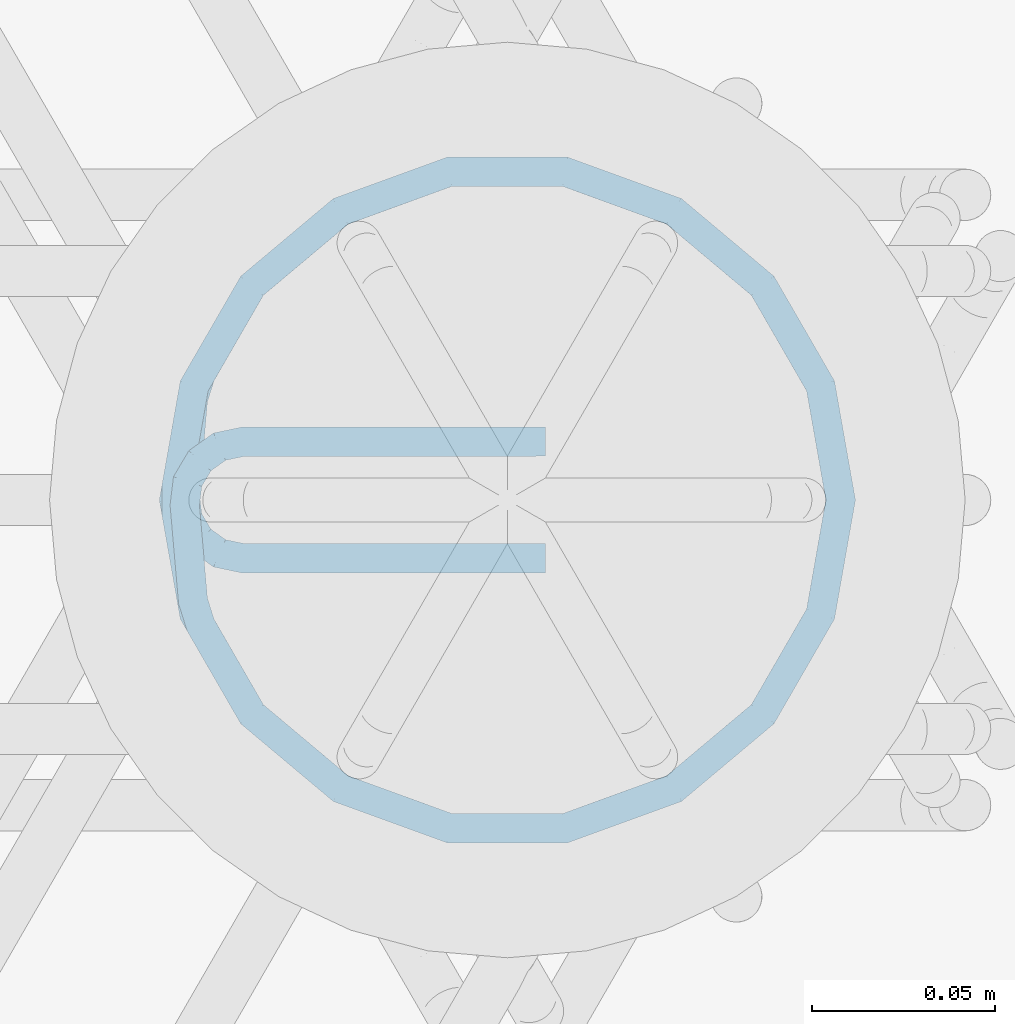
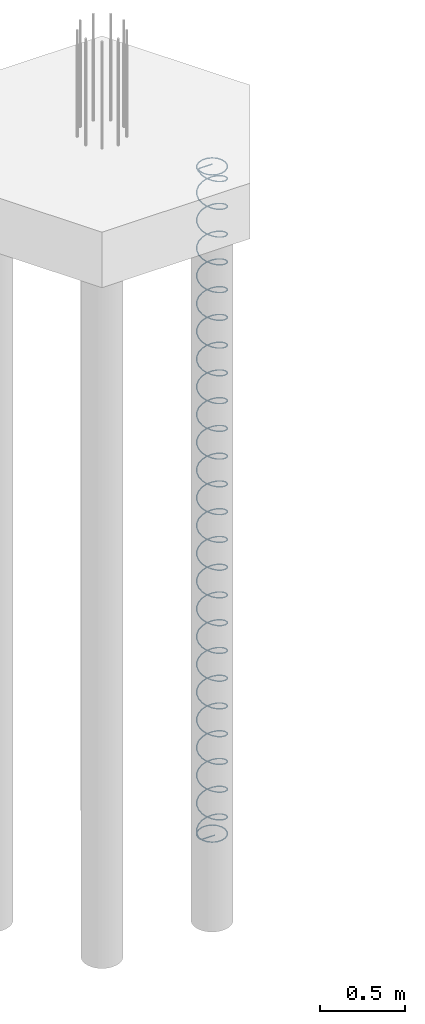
# One storey, part 12 of 23: 1 reinforcing bar.
"""IFC2X3 building model written with IfcOpenShell, lengths in metres."""

from ifc_helpers import new_model, entity, si_unit, direction, frame, origin, place, context, subcontext, project, spatial, shape, source, transform, mapped, element, save


model = new_model("IFC2X3")

# Units and contexts
model_context = context("Model", 3, precision=0.0, world=origin(), true_north=direction((0.0, 1.0)))
plan_context = context("Plan", 3, precision=0.0, world=origin(), true_north=direction((0.0, 1.0)))
body_context = subcontext(model_context, "Body", "Model", "MODEL_VIEW", scale=1.0)
ifc_project = project(units=[si_unit("LENGTHUNIT", "METRE"), si_unit("AREAUNIT", "SQUARE_METRE"), si_unit("VOLUMEUNIT", "CUBIC_METRE"), si_unit("PLANEANGLEUNIT", "RADIAN"), si_unit("THERMODYNAMICTEMPERATUREUNIT", "DEGREE_CELSIUS"), si_unit("FORCEUNIT", "NEWTON"), si_unit("MASSUNIT", "GRAM", prefix="KILO")], contexts=[model_context, plan_context])

# Site, building, storey
placement = place(None, origin())
site = spatial("IfcSite", under=ifc_project, at=placement, Name="Default Site", CompositionType="ELEMENT")
building = spatial("IfcBuilding", under=site, at=placement, Name="Default Building", CompositionType="ELEMENT")
storey_placement = place(placement, frame((0.0, 0.0, 0.0), z_axis=(1.0, 0.0, 0.0), x_axis=(0.0, 0.0, 1.0)))
storey = spatial("IfcBuildingStorey", under=building, at=storey_placement, Name="Piano 0", CompositionType="ELEMENT", Elevation=0.0)

# Reinforcing bar
shared_shape = source(origin(), body_context, None, "AdvancedSweptSolid", [
    entity("IfcSweptDiskSolid", entity("IfcCompositeCurve", [entity("IfcCompositeCurveSegment", "CONTINUOUS", True, entity("IfcPolyline", [entity("IfcCartesianPoint", [0.0, 0.0, 0.0]), entity("IfcCartesianPoint", [-0.08255, 0.0, 0.0]), entity("IfcCartesianPoint", [-0.088992, -0.001354, -1.3e-05]), entity("IfcCartesianPoint", [-0.094343, -0.005186, -4.9e-05]), entity("IfcCartesianPoint", [-0.097699, -0.010849, -0.000103]), entity("IfcCartesianPoint", [-0.09849, -0.017383, -0.000164]), entity("IfcCartesianPoint", [-0.096222, -0.043503, -0.000411]), entity("IfcCartesianPoint", [-0.094139, -0.050118, -0.000494]), entity("IfcCartesianPoint", [-0.080113, -0.074411, -0.000889]), entity("IfcCartesianPoint", [-0.055903, -0.094726, -0.001333]), entity("IfcCartesianPoint", [-0.026205, -0.105535, -0.001778]), entity("IfcCartesianPoint", [0.005399, -0.105535, -0.002222]), entity("IfcCartesianPoint", [0.035097, -0.094726, -0.002667]), entity("IfcCartesianPoint", [0.059307, -0.074411, -0.003111]), entity("IfcCartesianPoint", [0.075109, -0.047042, -0.003556]), entity("IfcCartesianPoint", [0.080597, -0.015918, -0.004]), entity("IfcCartesianPoint", [0.075109, 0.015206, -0.004444]), entity("IfcCartesianPoint", [0.059307, 0.042576, -0.004889]), entity("IfcCartesianPoint", [0.035097, 0.062891, -0.005333]), entity("IfcCartesianPoint", [0.005399, 0.0737, -0.005778]), entity("IfcCartesianPoint", [-0.026205, 0.0737, -0.006222]), entity("IfcCartesianPoint", [-0.055903, 0.062891, -0.006667]), entity("IfcCartesianPoint", [-0.080113, 0.042576, -0.007111]), entity("IfcCartesianPoint", [-0.095915, 0.015206, -0.007556]), entity("IfcCartesianPoint", [-0.100736, -0.012136, -0.007946]), entity("IfcCartesianPoint", [-0.100774, -0.019485, -0.009274]), entity("IfcCartesianPoint", [-0.095915, -0.047042, -0.019111]), entity("IfcCartesianPoint", [-0.080113, -0.074411, -0.030222]), entity("IfcCartesianPoint", [-0.055903, -0.094726, -0.041333]), entity("IfcCartesianPoint", [-0.026205, -0.105535, -0.052444]), entity("IfcCartesianPoint", [0.005399, -0.105535, -0.063556]), entity("IfcCartesianPoint", [0.035097, -0.094726, -0.074667]), entity("IfcCartesianPoint", [0.059307, -0.074411, -0.085778]), entity("IfcCartesianPoint", [0.075109, -0.047042, -0.096889]), entity("IfcCartesianPoint", [0.080597, -0.015918, -0.108]), entity("IfcCartesianPoint", [0.075109, 0.015206, -0.119111]), entity("IfcCartesianPoint", [0.059307, 0.042576, -0.130222]), entity("IfcCartesianPoint", [0.035097, 0.062891, -0.141333]), entity("IfcCartesianPoint", [0.005399, 0.0737, -0.152444]), entity("IfcCartesianPoint", [-0.026205, 0.0737, -0.163556]), entity("IfcCartesianPoint", [-0.055903, 0.062891, -0.174667]), entity("IfcCartesianPoint", [-0.080113, 0.042576, -0.185778]), entity("IfcCartesianPoint", [-0.095915, 0.015206, -0.196889]), entity("IfcCartesianPoint", [-0.101403, -0.015918, -0.208]), entity("IfcCartesianPoint", [-0.095915, -0.047042, -0.219111]), entity("IfcCartesianPoint", [-0.080113, -0.074411, -0.230222]), entity("IfcCartesianPoint", [-0.055903, -0.094726, -0.241333]), entity("IfcCartesianPoint", [-0.026205, -0.105535, -0.252444]), entity("IfcCartesianPoint", [0.005399, -0.105535, -0.263556]), entity("IfcCartesianPoint", [0.035097, -0.094726, -0.274667]), entity("IfcCartesianPoint", [0.059307, -0.074411, -0.285778]), entity("IfcCartesianPoint", [0.075109, -0.047042, -0.296889]), entity("IfcCartesianPoint", [0.080597, -0.015918, -0.308]), entity("IfcCartesianPoint", [0.075109, 0.015206, -0.319111]), entity("IfcCartesianPoint", [0.059307, 0.042576, -0.330222]), entity("IfcCartesianPoint", [0.035097, 0.062891, -0.341333]), entity("IfcCartesianPoint", [0.005399, 0.0737, -0.352444]), entity("IfcCartesianPoint", [-0.026205, 0.0737, -0.363556]), entity("IfcCartesianPoint", [-0.055903, 0.062891, -0.374667]), entity("IfcCartesianPoint", [-0.080113, 0.042576, -0.385778]), entity("IfcCartesianPoint", [-0.095915, 0.015206, -0.396889]), entity("IfcCartesianPoint", [-0.101403, -0.015918, -0.408]), entity("IfcCartesianPoint", [-0.095915, -0.047042, -0.419111]), entity("IfcCartesianPoint", [-0.080113, -0.074411, -0.430222]), entity("IfcCartesianPoint", [-0.055903, -0.094726, -0.441333]), entity("IfcCartesianPoint", [-0.026205, -0.105535, -0.452444]), entity("IfcCartesianPoint", [0.005399, -0.105535, -0.463556]), entity("IfcCartesianPoint", [0.035097, -0.094726, -0.474667]), entity("IfcCartesianPoint", [0.059307, -0.074411, -0.485778]), entity("IfcCartesianPoint", [0.075109, -0.047042, -0.496889]), entity("IfcCartesianPoint", [0.080597, -0.015918, -0.508]), entity("IfcCartesianPoint", [0.075109, 0.015206, -0.519111]), entity("IfcCartesianPoint", [0.059307, 0.042576, -0.530222]), entity("IfcCartesianPoint", [0.035097, 0.062891, -0.541333]), entity("IfcCartesianPoint", [0.005399, 0.0737, -0.552444]), entity("IfcCartesianPoint", [-0.026205, 0.0737, -0.563556]), entity("IfcCartesianPoint", [-0.055903, 0.062891, -0.574667]), entity("IfcCartesianPoint", [-0.080113, 0.042576, -0.585778]), entity("IfcCartesianPoint", [-0.095915, 0.015206, -0.596889]), entity("IfcCartesianPoint", [-0.101403, -0.015918, -0.608]), entity("IfcCartesianPoint", [-0.095915, -0.047042, -0.619111]), entity("IfcCartesianPoint", [-0.080113, -0.074411, -0.630222]), entity("IfcCartesianPoint", [-0.055903, -0.094726, -0.641333]), entity("IfcCartesianPoint", [-0.026205, -0.105535, -0.652444]), entity("IfcCartesianPoint", [0.005399, -0.105535, -0.663556]), entity("IfcCartesianPoint", [0.035097, -0.094726, -0.674667]), entity("IfcCartesianPoint", [0.059307, -0.074411, -0.685778]), entity("IfcCartesianPoint", [0.075109, -0.047042, -0.696889]), entity("IfcCartesianPoint", [0.080597, -0.015918, -0.708]), entity("IfcCartesianPoint", [0.075109, 0.015206, -0.719111]), entity("IfcCartesianPoint", [0.059307, 0.042576, -0.730222]), entity("IfcCartesianPoint", [0.035097, 0.062891, -0.741333]), entity("IfcCartesianPoint", [0.005399, 0.0737, -0.752444]), entity("IfcCartesianPoint", [-0.026205, 0.0737, -0.763556]), entity("IfcCartesianPoint", [-0.055903, 0.062891, -0.774667]), entity("IfcCartesianPoint", [-0.080113, 0.042576, -0.785778]), entity("IfcCartesianPoint", [-0.095915, 0.015206, -0.796889]), entity("IfcCartesianPoint", [-0.101403, -0.015918, -0.808]), entity("IfcCartesianPoint", [-0.095915, -0.047042, -0.819111]), entity("IfcCartesianPoint", [-0.080113, -0.074411, -0.830222]), entity("IfcCartesianPoint", [-0.055903, -0.094726, -0.841333]), entity("IfcCartesianPoint", [-0.026205, -0.105535, -0.852444]), entity("IfcCartesianPoint", [0.005399, -0.105535, -0.863556]), entity("IfcCartesianPoint", [0.035097, -0.094726, -0.874667]), entity("IfcCartesianPoint", [0.059307, -0.074411, -0.885778]), entity("IfcCartesianPoint", [0.075109, -0.047042, -0.896889]), entity("IfcCartesianPoint", [0.080597, -0.015918, -0.908]), entity("IfcCartesianPoint", [0.075109, 0.015206, -0.919111]), entity("IfcCartesianPoint", [0.059307, 0.042576, -0.930222]), entity("IfcCartesianPoint", [0.035097, 0.062891, -0.941333]), entity("IfcCartesianPoint", [0.005399, 0.0737, -0.952444]), entity("IfcCartesianPoint", [-0.026205, 0.0737, -0.963556]), entity("IfcCartesianPoint", [-0.055903, 0.062891, -0.974667]), entity("IfcCartesianPoint", [-0.080113, 0.042576, -0.985778]), entity("IfcCartesianPoint", [-0.095915, 0.015206, -0.996889]), entity("IfcCartesianPoint", [-0.101403, -0.015918, -1.008]), entity("IfcCartesianPoint", [-0.095915, -0.047042, -1.019111]), entity("IfcCartesianPoint", [-0.080113, -0.074411, -1.030222]), entity("IfcCartesianPoint", [-0.055903, -0.094726, -1.041333]), entity("IfcCartesianPoint", [-0.026205, -0.105535, -1.052444]), entity("IfcCartesianPoint", [0.005399, -0.105535, -1.063556]), entity("IfcCartesianPoint", [0.035097, -0.094726, -1.074667]), entity("IfcCartesianPoint", [0.059307, -0.074411, -1.085778]), entity("IfcCartesianPoint", [0.075109, -0.047042, -1.096889]), entity("IfcCartesianPoint", [0.080597, -0.015918, -1.108]), entity("IfcCartesianPoint", [0.075109, 0.015206, -1.119111]), entity("IfcCartesianPoint", [0.059307, 0.042576, -1.130222]), entity("IfcCartesianPoint", [0.035097, 0.062891, -1.141333]), entity("IfcCartesianPoint", [0.005399, 0.0737, -1.152444]), entity("IfcCartesianPoint", [-0.026205, 0.0737, -1.163556]), entity("IfcCartesianPoint", [-0.055903, 0.062891, -1.174667]), entity("IfcCartesianPoint", [-0.080113, 0.042576, -1.185778]), entity("IfcCartesianPoint", [-0.095915, 0.015206, -1.196889]), entity("IfcCartesianPoint", [-0.101403, -0.015918, -1.208]), entity("IfcCartesianPoint", [-0.095915, -0.047042, -1.219111]), entity("IfcCartesianPoint", [-0.080113, -0.074411, -1.230222]), entity("IfcCartesianPoint", [-0.055903, -0.094726, -1.241333]), entity("IfcCartesianPoint", [-0.026205, -0.105535, -1.252444]), entity("IfcCartesianPoint", [0.005399, -0.105535, -1.263556]), entity("IfcCartesianPoint", [0.035097, -0.094726, -1.274667]), entity("IfcCartesianPoint", [0.059307, -0.074411, -1.285778]), entity("IfcCartesianPoint", [0.075109, -0.047042, -1.296889]), entity("IfcCartesianPoint", [0.080597, -0.015918, -1.308]), entity("IfcCartesianPoint", [0.075109, 0.015206, -1.319111]), entity("IfcCartesianPoint", [0.059307, 0.042576, -1.330222]), entity("IfcCartesianPoint", [0.035097, 0.062891, -1.341333]), entity("IfcCartesianPoint", [0.005399, 0.0737, -1.352444]), entity("IfcCartesianPoint", [-0.026205, 0.0737, -1.363556]), entity("IfcCartesianPoint", [-0.055903, 0.062891, -1.374667]), entity("IfcCartesianPoint", [-0.080113, 0.042576, -1.385778]), entity("IfcCartesianPoint", [-0.095915, 0.015206, -1.396889]), entity("IfcCartesianPoint", [-0.101403, -0.015918, -1.408]), entity("IfcCartesianPoint", [-0.095915, -0.047042, -1.419111]), entity("IfcCartesianPoint", [-0.080113, -0.074411, -1.430222]), entity("IfcCartesianPoint", [-0.055903, -0.094726, -1.441333]), entity("IfcCartesianPoint", [-0.026205, -0.105535, -1.452444]), entity("IfcCartesianPoint", [0.005399, -0.105535, -1.463556]), entity("IfcCartesianPoint", [0.035097, -0.094726, -1.474667]), entity("IfcCartesianPoint", [0.059307, -0.074411, -1.485778]), entity("IfcCartesianPoint", [0.075109, -0.047042, -1.496889]), entity("IfcCartesianPoint", [0.080597, -0.015918, -1.508]), entity("IfcCartesianPoint", [0.075109, 0.015206, -1.519111]), entity("IfcCartesianPoint", [0.059307, 0.042576, -1.530222]), entity("IfcCartesianPoint", [0.035097, 0.062891, -1.541333]), entity("IfcCartesianPoint", [0.005399, 0.0737, -1.552444]), entity("IfcCartesianPoint", [-0.026205, 0.0737, -1.563556]), entity("IfcCartesianPoint", [-0.055903, 0.062891, -1.574667]), entity("IfcCartesianPoint", [-0.080113, 0.042576, -1.585778]), entity("IfcCartesianPoint", [-0.095915, 0.015206, -1.596889]), entity("IfcCartesianPoint", [-0.101403, -0.015918, -1.608]), entity("IfcCartesianPoint", [-0.095915, -0.047042, -1.619111]), entity("IfcCartesianPoint", [-0.080113, -0.074411, -1.630222]), entity("IfcCartesianPoint", [-0.055903, -0.094726, -1.641333]), entity("IfcCartesianPoint", [-0.026205, -0.105535, -1.652444]), entity("IfcCartesianPoint", [0.005399, -0.105535, -1.663556]), entity("IfcCartesianPoint", [0.035097, -0.094726, -1.674667]), entity("IfcCartesianPoint", [0.059307, -0.074411, -1.685778]), entity("IfcCartesianPoint", [0.075109, -0.047042, -1.696889]), entity("IfcCartesianPoint", [0.080597, -0.015918, -1.708]), entity("IfcCartesianPoint", [0.075109, 0.015206, -1.719111]), entity("IfcCartesianPoint", [0.059307, 0.042576, -1.730222]), entity("IfcCartesianPoint", [0.035097, 0.062891, -1.741333]), entity("IfcCartesianPoint", [0.005399, 0.0737, -1.752444]), entity("IfcCartesianPoint", [-0.026205, 0.0737, -1.763556]), entity("IfcCartesianPoint", [-0.055903, 0.062891, -1.774667]), entity("IfcCartesianPoint", [-0.080113, 0.042576, -1.785778]), entity("IfcCartesianPoint", [-0.095915, 0.015206, -1.796889]), entity("IfcCartesianPoint", [-0.101403, -0.015918, -1.808]), entity("IfcCartesianPoint", [-0.095915, -0.047042, -1.819111]), entity("IfcCartesianPoint", [-0.080113, -0.074411, -1.830222]), entity("IfcCartesianPoint", [-0.055903, -0.094726, -1.841333]), entity("IfcCartesianPoint", [-0.026205, -0.105535, -1.852444]), entity("IfcCartesianPoint", [0.005399, -0.105535, -1.863556]), entity("IfcCartesianPoint", [0.035097, -0.094726, -1.874667]), entity("IfcCartesianPoint", [0.059307, -0.074411, -1.885778]), entity("IfcCartesianPoint", [0.075109, -0.047042, -1.896889]), entity("IfcCartesianPoint", [0.080597, -0.015918, -1.908]), entity("IfcCartesianPoint", [0.075109, 0.015206, -1.919111]), entity("IfcCartesianPoint", [0.059307, 0.042576, -1.930222]), entity("IfcCartesianPoint", [0.035097, 0.062891, -1.941333]), entity("IfcCartesianPoint", [0.005399, 0.0737, -1.952444]), entity("IfcCartesianPoint", [-0.026205, 0.0737, -1.963556]), entity("IfcCartesianPoint", [-0.055903, 0.062891, -1.974667]), entity("IfcCartesianPoint", [-0.080113, 0.042576, -1.985778]), entity("IfcCartesianPoint", [-0.095915, 0.015206, -1.996889]), entity("IfcCartesianPoint", [-0.101403, -0.015918, -2.008]), entity("IfcCartesianPoint", [-0.095915, -0.047042, -2.019111]), entity("IfcCartesianPoint", [-0.080113, -0.074411, -2.030222]), entity("IfcCartesianPoint", [-0.055903, -0.094726, -2.041333]), entity("IfcCartesianPoint", [-0.026205, -0.105535, -2.052444]), entity("IfcCartesianPoint", [0.005399, -0.105535, -2.063556]), entity("IfcCartesianPoint", [0.035097, -0.094726, -2.074667]), entity("IfcCartesianPoint", [0.059307, -0.074411, -2.085778]), entity("IfcCartesianPoint", [0.075109, -0.047042, -2.096889]), entity("IfcCartesianPoint", [0.080597, -0.015918, -2.108]), entity("IfcCartesianPoint", [0.075109, 0.015206, -2.119111]), entity("IfcCartesianPoint", [0.059307, 0.042576, -2.130222]), entity("IfcCartesianPoint", [0.035097, 0.062891, -2.141333]), entity("IfcCartesianPoint", [0.005399, 0.0737, -2.152444]), entity("IfcCartesianPoint", [-0.026205, 0.0737, -2.163556]), entity("IfcCartesianPoint", [-0.055903, 0.062891, -2.174667]), entity("IfcCartesianPoint", [-0.080113, 0.042576, -2.185778]), entity("IfcCartesianPoint", [-0.095915, 0.015206, -2.196889]), entity("IfcCartesianPoint", [-0.101403, -0.015918, -2.208]), entity("IfcCartesianPoint", [-0.095915, -0.047042, -2.219111]), entity("IfcCartesianPoint", [-0.080113, -0.074411, -2.230222]), entity("IfcCartesianPoint", [-0.055903, -0.094726, -2.241333]), entity("IfcCartesianPoint", [-0.026205, -0.105535, -2.252444]), entity("IfcCartesianPoint", [0.005399, -0.105535, -2.263556]), entity("IfcCartesianPoint", [0.035097, -0.094726, -2.274667]), entity("IfcCartesianPoint", [0.059307, -0.074411, -2.285778]), entity("IfcCartesianPoint", [0.075109, -0.047042, -2.296889]), entity("IfcCartesianPoint", [0.080597, -0.015918, -2.308]), entity("IfcCartesianPoint", [0.075109, 0.015206, -2.319111]), entity("IfcCartesianPoint", [0.059307, 0.042576, -2.330222]), entity("IfcCartesianPoint", [0.035097, 0.062891, -2.341333]), entity("IfcCartesianPoint", [0.005399, 0.0737, -2.352444]), entity("IfcCartesianPoint", [-0.026205, 0.0737, -2.363556]), entity("IfcCartesianPoint", [-0.055903, 0.062891, -2.374667]), entity("IfcCartesianPoint", [-0.080113, 0.042576, -2.385778]), entity("IfcCartesianPoint", [-0.095915, 0.015206, -2.396889]), entity("IfcCartesianPoint", [-0.101403, -0.015918, -2.408]), entity("IfcCartesianPoint", [-0.095915, -0.047042, -2.419111]), entity("IfcCartesianPoint", [-0.080113, -0.074411, -2.430222]), entity("IfcCartesianPoint", [-0.055903, -0.094726, -2.441333]), entity("IfcCartesianPoint", [-0.026205, -0.105535, -2.452444]), entity("IfcCartesianPoint", [0.005399, -0.105535, -2.463556]), entity("IfcCartesianPoint", [0.035097, -0.094726, -2.474667]), entity("IfcCartesianPoint", [0.059307, -0.074411, -2.485778]), entity("IfcCartesianPoint", [0.075109, -0.047042, -2.496889]), entity("IfcCartesianPoint", [0.080597, -0.015918, -2.508]), entity("IfcCartesianPoint", [0.075109, 0.015206, -2.519111]), entity("IfcCartesianPoint", [0.059307, 0.042576, -2.530222]), entity("IfcCartesianPoint", [0.035097, 0.062891, -2.541333]), entity("IfcCartesianPoint", [0.005399, 0.0737, -2.552444]), entity("IfcCartesianPoint", [-0.026205, 0.0737, -2.563556]), entity("IfcCartesianPoint", [-0.055903, 0.062891, -2.574667]), entity("IfcCartesianPoint", [-0.080113, 0.042576, -2.585778]), entity("IfcCartesianPoint", [-0.095915, 0.015206, -2.596889]), entity("IfcCartesianPoint", [-0.101403, -0.015918, -2.608]), entity("IfcCartesianPoint", [-0.095915, -0.047042, -2.619111]), entity("IfcCartesianPoint", [-0.080113, -0.074411, -2.630222]), entity("IfcCartesianPoint", [-0.055903, -0.094726, -2.641333]), entity("IfcCartesianPoint", [-0.026205, -0.105535, -2.652444]), entity("IfcCartesianPoint", [0.005399, -0.105535, -2.663556]), entity("IfcCartesianPoint", [0.035097, -0.094726, -2.674667]), entity("IfcCartesianPoint", [0.059307, -0.074411, -2.685778]), entity("IfcCartesianPoint", [0.075109, -0.047042, -2.696889]), entity("IfcCartesianPoint", [0.080597, -0.015918, -2.708]), entity("IfcCartesianPoint", [0.075109, 0.015206, -2.719111]), entity("IfcCartesianPoint", [0.059307, 0.042576, -2.730222]), entity("IfcCartesianPoint", [0.035097, 0.062891, -2.741333]), entity("IfcCartesianPoint", [0.005399, 0.0737, -2.752444]), entity("IfcCartesianPoint", [-0.026205, 0.0737, -2.763556]), entity("IfcCartesianPoint", [-0.055903, 0.062891, -2.774667]), entity("IfcCartesianPoint", [-0.080113, 0.042576, -2.785778]), entity("IfcCartesianPoint", [-0.095915, 0.015206, -2.796889]), entity("IfcCartesianPoint", [-0.101403, -0.015918, -2.808]), entity("IfcCartesianPoint", [-0.095915, -0.047042, -2.819111]), entity("IfcCartesianPoint", [-0.080113, -0.074411, -2.830222]), entity("IfcCartesianPoint", [-0.055903, -0.094726, -2.841333]), entity("IfcCartesianPoint", [-0.026205, -0.105535, -2.852444]), entity("IfcCartesianPoint", [0.005399, -0.105535, -2.863556]), entity("IfcCartesianPoint", [0.035097, -0.094726, -2.874667]), entity("IfcCartesianPoint", [0.059307, -0.074411, -2.885778]), entity("IfcCartesianPoint", [0.075109, -0.047042, -2.896889]), entity("IfcCartesianPoint", [0.080597, -0.015918, -2.908]), entity("IfcCartesianPoint", [0.075109, 0.015206, -2.919111]), entity("IfcCartesianPoint", [0.059307, 0.042576, -2.930222]), entity("IfcCartesianPoint", [0.035097, 0.062891, -2.941333]), entity("IfcCartesianPoint", [0.005399, 0.0737, -2.952444]), entity("IfcCartesianPoint", [-0.026205, 0.0737, -2.963556]), entity("IfcCartesianPoint", [-0.055903, 0.062891, -2.974667]), entity("IfcCartesianPoint", [-0.080113, 0.042576, -2.985778]), entity("IfcCartesianPoint", [-0.095915, 0.015206, -2.996889]), entity("IfcCartesianPoint", [-0.101403, -0.015918, -3.008]), entity("IfcCartesianPoint", [-0.095915, -0.047042, -3.019111]), entity("IfcCartesianPoint", [-0.080113, -0.074411, -3.030222]), entity("IfcCartesianPoint", [-0.055903, -0.094726, -3.041333]), entity("IfcCartesianPoint", [-0.026205, -0.105535, -3.052444]), entity("IfcCartesianPoint", [0.005399, -0.105535, -3.063556]), entity("IfcCartesianPoint", [0.035097, -0.094726, -3.074667]), entity("IfcCartesianPoint", [0.059307, -0.074411, -3.085778]), entity("IfcCartesianPoint", [0.075109, -0.047042, -3.096889]), entity("IfcCartesianPoint", [0.080597, -0.015918, -3.108]), entity("IfcCartesianPoint", [0.075109, 0.015206, -3.119111]), entity("IfcCartesianPoint", [0.059307, 0.042576, -3.130222]), entity("IfcCartesianPoint", [0.035097, 0.062891, -3.141333]), entity("IfcCartesianPoint", [0.005399, 0.0737, -3.152444]), entity("IfcCartesianPoint", [-0.026205, 0.0737, -3.163556]), entity("IfcCartesianPoint", [-0.055903, 0.062891, -3.174667]), entity("IfcCartesianPoint", [-0.080113, 0.042576, -3.185778]), entity("IfcCartesianPoint", [-0.095915, 0.015206, -3.196889]), entity("IfcCartesianPoint", [-0.101403, -0.015918, -3.208]), entity("IfcCartesianPoint", [-0.095915, -0.047042, -3.219111]), entity("IfcCartesianPoint", [-0.080113, -0.074411, -3.230222]), entity("IfcCartesianPoint", [-0.055903, -0.094726, -3.241333]), entity("IfcCartesianPoint", [-0.026205, -0.105535, -3.252444]), entity("IfcCartesianPoint", [0.005399, -0.105535, -3.263556]), entity("IfcCartesianPoint", [0.035097, -0.094726, -3.274667]), entity("IfcCartesianPoint", [0.059307, -0.074411, -3.285778]), entity("IfcCartesianPoint", [0.075109, -0.047042, -3.296889]), entity("IfcCartesianPoint", [0.080597, -0.015918, -3.308]), entity("IfcCartesianPoint", [0.075109, 0.015206, -3.319111]), entity("IfcCartesianPoint", [0.059307, 0.042576, -3.330222]), entity("IfcCartesianPoint", [0.035097, 0.062891, -3.341333]), entity("IfcCartesianPoint", [0.005399, 0.0737, -3.352444]), entity("IfcCartesianPoint", [-0.026205, 0.0737, -3.363556]), entity("IfcCartesianPoint", [-0.055903, 0.062891, -3.374667]), entity("IfcCartesianPoint", [-0.080113, 0.042576, -3.385778]), entity("IfcCartesianPoint", [-0.095915, 0.015206, -3.396889]), entity("IfcCartesianPoint", [-0.101403, -0.015918, -3.408]), entity("IfcCartesianPoint", [-0.095915, -0.047042, -3.419111]), entity("IfcCartesianPoint", [-0.080113, -0.074411, -3.430222]), entity("IfcCartesianPoint", [-0.055903, -0.094726, -3.441333]), entity("IfcCartesianPoint", [-0.026205, -0.105535, -3.452444]), entity("IfcCartesianPoint", [0.005399, -0.105535, -3.463556]), entity("IfcCartesianPoint", [0.035097, -0.094726, -3.474667]), entity("IfcCartesianPoint", [0.059307, -0.074411, -3.485778]), entity("IfcCartesianPoint", [0.075109, -0.047042, -3.496889]), entity("IfcCartesianPoint", [0.080597, -0.015918, -3.508]), entity("IfcCartesianPoint", [0.075109, 0.015206, -3.519111]), entity("IfcCartesianPoint", [0.059307, 0.042576, -3.530222]), entity("IfcCartesianPoint", [0.035097, 0.062891, -3.541333]), entity("IfcCartesianPoint", [0.005399, 0.0737, -3.552444]), entity("IfcCartesianPoint", [-0.026205, 0.0737, -3.563556]), entity("IfcCartesianPoint", [-0.055903, 0.062891, -3.574667]), entity("IfcCartesianPoint", [-0.080113, 0.042576, -3.585778]), entity("IfcCartesianPoint", [-0.095915, 0.015206, -3.596889]), entity("IfcCartesianPoint", [-0.101403, -0.015918, -3.608]), entity("IfcCartesianPoint", [-0.095915, -0.047042, -3.619111]), entity("IfcCartesianPoint", [-0.080113, -0.074411, -3.630222]), entity("IfcCartesianPoint", [-0.055903, -0.094726, -3.641333]), entity("IfcCartesianPoint", [-0.026205, -0.105535, -3.652444]), entity("IfcCartesianPoint", [0.005399, -0.105535, -3.663556]), entity("IfcCartesianPoint", [0.035097, -0.094726, -3.674667]), entity("IfcCartesianPoint", [0.059307, -0.074411, -3.685778]), entity("IfcCartesianPoint", [0.075109, -0.047042, -3.696889]), entity("IfcCartesianPoint", [0.080597, -0.015918, -3.708]), entity("IfcCartesianPoint", [0.075109, 0.015206, -3.719111]), entity("IfcCartesianPoint", [0.059307, 0.042576, -3.730222]), entity("IfcCartesianPoint", [0.035097, 0.062891, -3.741333]), entity("IfcCartesianPoint", [0.005399, 0.0737, -3.752444]), entity("IfcCartesianPoint", [-0.026205, 0.0737, -3.763556]), entity("IfcCartesianPoint", [-0.055903, 0.062891, -3.774667]), entity("IfcCartesianPoint", [-0.080113, 0.042576, -3.785778]), entity("IfcCartesianPoint", [-0.095915, 0.015206, -3.796889]), entity("IfcCartesianPoint", [-0.101403, -0.015918, -3.808]), entity("IfcCartesianPoint", [-0.095915, -0.047042, -3.819111]), entity("IfcCartesianPoint", [-0.080113, -0.074411, -3.830222]), entity("IfcCartesianPoint", [-0.055903, -0.094726, -3.841333]), entity("IfcCartesianPoint", [-0.026205, -0.105535, -3.852444]), entity("IfcCartesianPoint", [0.005399, -0.105535, -3.863556]), entity("IfcCartesianPoint", [0.035097, -0.094726, -3.874667]), entity("IfcCartesianPoint", [0.059307, -0.074411, -3.885778]), entity("IfcCartesianPoint", [0.075109, -0.047042, -3.896889]), entity("IfcCartesianPoint", [0.080597, -0.015918, -3.908]), entity("IfcCartesianPoint", [0.075109, 0.015206, -3.919111]), entity("IfcCartesianPoint", [0.059307, 0.042576, -3.930222]), entity("IfcCartesianPoint", [0.035097, 0.062891, -3.941333]), entity("IfcCartesianPoint", [0.005399, 0.0737, -3.952444]), entity("IfcCartesianPoint", [-0.026205, 0.0737, -3.963556]), entity("IfcCartesianPoint", [-0.055903, 0.062891, -3.974667]), entity("IfcCartesianPoint", [-0.080113, 0.042576, -3.985778]), entity("IfcCartesianPoint", [-0.095915, 0.015206, -3.996889]), entity("IfcCartesianPoint", [-0.101403, -0.015918, -4.008]), entity("IfcCartesianPoint", [-0.095915, -0.047042, -4.019111]), entity("IfcCartesianPoint", [-0.080113, -0.074411, -4.030222]), entity("IfcCartesianPoint", [-0.055903, -0.094726, -4.041333]), entity("IfcCartesianPoint", [-0.026205, -0.105535, -4.052444]), entity("IfcCartesianPoint", [0.005399, -0.105535, -4.063556]), entity("IfcCartesianPoint", [0.035097, -0.094726, -4.074667]), entity("IfcCartesianPoint", [0.059307, -0.074411, -4.085778]), entity("IfcCartesianPoint", [0.075109, -0.047042, -4.096889]), entity("IfcCartesianPoint", [0.080597, -0.015918, -4.108]), entity("IfcCartesianPoint", [0.075109, 0.015206, -4.119111]), entity("IfcCartesianPoint", [0.059307, 0.042576, -4.130222]), entity("IfcCartesianPoint", [0.035097, 0.062891, -4.141333]), entity("IfcCartesianPoint", [0.005399, 0.0737, -4.152444]), entity("IfcCartesianPoint", [-0.026205, 0.0737, -4.163556]), entity("IfcCartesianPoint", [-0.055903, 0.062891, -4.174667]), entity("IfcCartesianPoint", [-0.080113, 0.042576, -4.185778]), entity("IfcCartesianPoint", [-0.095915, 0.015206, -4.196889]), entity("IfcCartesianPoint", [-0.101403, -0.015918, -4.208]), entity("IfcCartesianPoint", [-0.095915, -0.047042, -4.219111]), entity("IfcCartesianPoint", [-0.080113, -0.074411, -4.230222]), entity("IfcCartesianPoint", [-0.055903, -0.094726, -4.241333]), entity("IfcCartesianPoint", [-0.026205, -0.105535, -4.252444]), entity("IfcCartesianPoint", [0.005399, -0.105535, -4.263556]), entity("IfcCartesianPoint", [0.035097, -0.094726, -4.274667]), entity("IfcCartesianPoint", [0.059307, -0.074411, -4.285778]), entity("IfcCartesianPoint", [0.075109, -0.047042, -4.296889]), entity("IfcCartesianPoint", [0.080597, -0.015918, -4.308]), entity("IfcCartesianPoint", [0.075109, 0.015206, -4.319111]), entity("IfcCartesianPoint", [0.059307, 0.042576, -4.330222]), entity("IfcCartesianPoint", [0.035097, 0.062891, -4.341333]), entity("IfcCartesianPoint", [0.005399, 0.0737, -4.352444]), entity("IfcCartesianPoint", [-0.026205, 0.0737, -4.363556]), entity("IfcCartesianPoint", [-0.055903, 0.062891, -4.374667]), entity("IfcCartesianPoint", [-0.080113, 0.042576, -4.385778]), entity("IfcCartesianPoint", [-0.095915, 0.015206, -4.396889]), entity("IfcCartesianPoint", [-0.101403, -0.015918, -4.408]), entity("IfcCartesianPoint", [-0.095915, -0.047042, -4.419111]), entity("IfcCartesianPoint", [-0.080113, -0.074411, -4.430222]), entity("IfcCartesianPoint", [-0.055903, -0.094726, -4.441333]), entity("IfcCartesianPoint", [-0.026205, -0.105535, -4.452444]), entity("IfcCartesianPoint", [0.005399, -0.105535, -4.463556]), entity("IfcCartesianPoint", [0.035097, -0.094726, -4.474667]), entity("IfcCartesianPoint", [0.059307, -0.074411, -4.485778]), entity("IfcCartesianPoint", [0.075109, -0.047042, -4.496889]), entity("IfcCartesianPoint", [0.080597, -0.015918, -4.508]), entity("IfcCartesianPoint", [0.075109, 0.015206, -4.519111]), entity("IfcCartesianPoint", [0.059307, 0.042576, -4.530222]), entity("IfcCartesianPoint", [0.035097, 0.062891, -4.541333]), entity("IfcCartesianPoint", [0.005399, 0.0737, -4.552444]), entity("IfcCartesianPoint", [-0.026205, 0.0737, -4.563556]), entity("IfcCartesianPoint", [-0.055903, 0.062891, -4.574667]), entity("IfcCartesianPoint", [-0.080113, 0.042576, -4.585778]), entity("IfcCartesianPoint", [-0.095915, 0.015206, -4.596889]), entity("IfcCartesianPoint", [-0.101403, -0.015918, -4.608]), entity("IfcCartesianPoint", [-0.095915, -0.047042, -4.619111]), entity("IfcCartesianPoint", [-0.080113, -0.074411, -4.630222]), entity("IfcCartesianPoint", [-0.055903, -0.094726, -4.641333]), entity("IfcCartesianPoint", [-0.026205, -0.105535, -4.652444]), entity("IfcCartesianPoint", [0.005399, -0.105535, -4.663556]), entity("IfcCartesianPoint", [0.035097, -0.094726, -4.674667]), entity("IfcCartesianPoint", [0.059307, -0.074411, -4.685778]), entity("IfcCartesianPoint", [0.075109, -0.047042, -4.696889]), entity("IfcCartesianPoint", [0.080597, -0.015918, -4.708]), entity("IfcCartesianPoint", [0.075109, 0.015206, -4.719111]), entity("IfcCartesianPoint", [0.059307, 0.042576, -4.730222]), entity("IfcCartesianPoint", [0.035097, 0.062891, -4.741333]), entity("IfcCartesianPoint", [0.005399, 0.0737, -4.752444]), entity("IfcCartesianPoint", [-0.026205, 0.0737, -4.763556]), entity("IfcCartesianPoint", [-0.055903, 0.062891, -4.774667]), entity("IfcCartesianPoint", [-0.080113, 0.042576, -4.785778]), entity("IfcCartesianPoint", [-0.095915, 0.015206, -4.796889]), entity("IfcCartesianPoint", [-0.100774, -0.01235, -4.806726]), entity("IfcCartesianPoint", [-0.100736, -0.019699, -4.808054]), entity("IfcCartesianPoint", [-0.095915, -0.047042, -4.808444]), entity("IfcCartesianPoint", [-0.080113, -0.074411, -4.808889]), entity("IfcCartesianPoint", [-0.055903, -0.094726, -4.809333]), entity("IfcCartesianPoint", [-0.026205, -0.105535, -4.809778]), entity("IfcCartesianPoint", [0.005399, -0.105535, -4.810222]), entity("IfcCartesianPoint", [0.035097, -0.094726, -4.810667]), entity("IfcCartesianPoint", [0.059307, -0.074411, -4.811111]), entity("IfcCartesianPoint", [0.075109, -0.047042, -4.811556]), entity("IfcCartesianPoint", [0.080597, -0.015918, -4.812]), entity("IfcCartesianPoint", [0.075109, 0.015206, -4.812444]), entity("IfcCartesianPoint", [0.059307, 0.042576, -4.812889]), entity("IfcCartesianPoint", [0.035097, 0.062891, -4.813333]), entity("IfcCartesianPoint", [0.005399, 0.0737, -4.813778]), entity("IfcCartesianPoint", [-0.026205, 0.0737, -4.814222]), entity("IfcCartesianPoint", [-0.055903, 0.062891, -4.814667]), entity("IfcCartesianPoint", [-0.080113, 0.042576, -4.815111]), entity("IfcCartesianPoint", [-0.094139, 0.018282, -4.815506]), entity("IfcCartesianPoint", [-0.096222, 0.011667, -4.815589]), entity("IfcCartesianPoint", [-0.09849, -0.014452, -4.815836]), entity("IfcCartesianPoint", [-0.097699, -0.020986, -4.815897]), entity("IfcCartesianPoint", [-0.094343, -0.026649, -4.815951]), entity("IfcCartesianPoint", [-0.088992, -0.030481, -4.815987]), entity("IfcCartesianPoint", [-0.08255, -0.031835, -4.816]), entity("IfcCartesianPoint", [0.0, -0.031835, -4.816])]))], False), 0.004, 0.0, 0.0),
])
element("IfcReinforcingBar", 1, at=placement, inside=storey, Name="Arm Staffa; Palo:5 Filo:3 [Piano:0]", BarLength=15.841196, BarRole="SHEAR", BarSurface="TEXTURED", NominalDiameter=0.008, shapes=[
    shape(body_context, None, "MappedRepresentation", [mapped(shared_shape, transform((8.760403, 0.015918, -0.492)))]),
])

save(model, "model.ifc")
